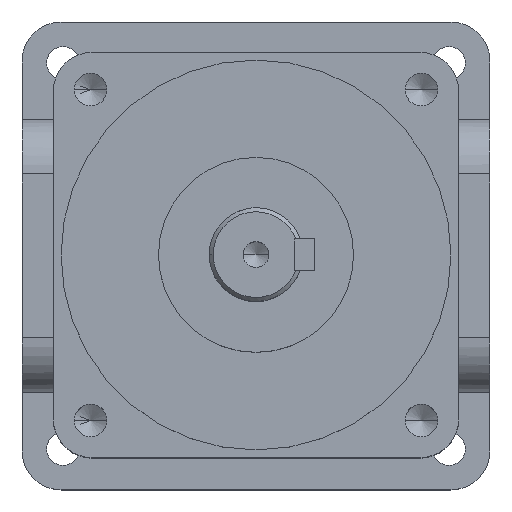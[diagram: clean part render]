
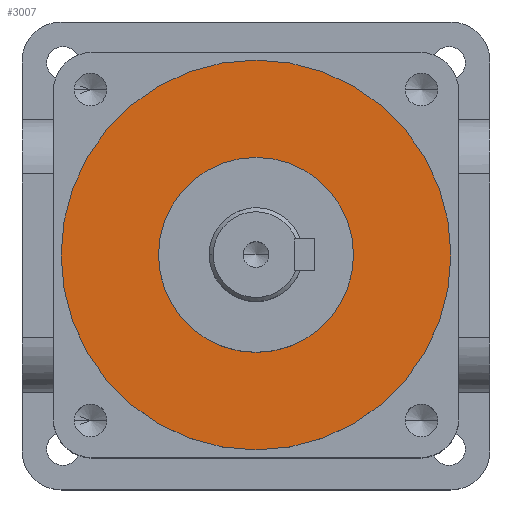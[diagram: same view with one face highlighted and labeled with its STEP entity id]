
A CAD part, top view. The second image highlights one B-rep face of the part: STEP entity #3007.
In plain terms, the highlighted planar face has unit normal (0, 0, 1).
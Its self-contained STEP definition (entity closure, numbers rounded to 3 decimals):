
#234 = CARTESIAN_POINT ( 'NONE',  ( 25., 0., 3. ) ) ;
#813 = CIRCLE ( 'NONE', #21940, 12.5 ) ;
#1140 = DIRECTION ( 'NONE',  ( 0., 0., -1. ) ) ;
#1425 = FACE_BOUND ( 'NONE', #5401, .T. ) ;
#1467 = ORIENTED_EDGE ( 'NONE', *, *, #32399, .F. ) ;
#1773 = DIRECTION ( 'NONE',  ( 0., 0., -1. ) ) ;
#2527 = DIRECTION ( 'NONE',  ( 1., 0., 0. ) ) ;
#2877 = CARTESIAN_POINT ( 'NONE',  ( 0., 0., 3. ) ) ;
#3007 = ADVANCED_FACE ( 'NONE', ( #1425, #14783 ), #15028, .T. ) ;
#5401 = EDGE_LOOP ( 'NONE', ( #31891, #11650 ) ) ;
#5411 = DIRECTION ( 'NONE',  ( -1., 0., 0. ) ) ;
#8557 = VERTEX_POINT ( 'NONE', #234 ) ;
#8978 = CARTESIAN_POINT ( 'NONE',  ( -25., 0., 3. ) ) ;
#9339 = VERTEX_POINT ( 'NONE', #9820 ) ;
#9820 = CARTESIAN_POINT ( 'NONE',  ( -12.5, 0., 3. ) ) ;
#10152 = ORIENTED_EDGE ( 'NONE', *, *, #20125, .F. ) ;
#10666 = VERTEX_POINT ( 'NONE', #13434 ) ;
#11650 = ORIENTED_EDGE ( 'NONE', *, *, #15153, .T. ) ;
#12480 = CARTESIAN_POINT ( 'NONE',  ( 0., 0., 3. ) ) ;
#12578 = EDGE_LOOP ( 'NONE', ( #1467, #10152 ) ) ;
#13266 = CARTESIAN_POINT ( 'NONE',  ( 0., 0., 3. ) ) ;
#13434 = CARTESIAN_POINT ( 'NONE',  ( 12.5, 0., 3. ) ) ;
#14526 = AXIS2_PLACEMENT_3D ( 'NONE', #13266, #30865, #15823 ) ;
#14679 = CIRCLE ( 'NONE', #14526, 12.5 ) ;
#14783 = FACE_OUTER_BOUND ( 'NONE', #12578, .T. ) ;
#15028 = PLANE ( 'NONE',  #32118 ) ;
#15141 = CIRCLE ( 'NONE', #22483, 25. ) ;
#15153 = EDGE_CURVE ( 'NONE', #10666, #9339, #14679, .T. ) ;
#15823 = DIRECTION ( 'NONE',  ( -1., 0., 0. ) ) ;
#16203 = CARTESIAN_POINT ( 'NONE',  ( 0., 0., 3. ) ) ;
#16821 = CARTESIAN_POINT ( 'NONE',  ( 0., 0., 3. ) ) ;
#17557 = DIRECTION ( 'NONE',  ( 0., 0., 1. ) ) ;
#18700 = DIRECTION ( 'NONE',  ( -1., 0., 0. ) ) ;
#19353 = DIRECTION ( 'NONE',  ( -1., 0., 0. ) ) ;
#20125 = EDGE_CURVE ( 'NONE', #8557, #23948, #30697, .T. ) ;
#20466 = DIRECTION ( 'NONE',  ( 0., 0., -1. ) ) ;
#21940 = AXIS2_PLACEMENT_3D ( 'NONE', #16821, #1773, #19353 ) ;
#22483 = AXIS2_PLACEMENT_3D ( 'NONE', #2877, #20466, #5411 ) ;
#23948 = VERTEX_POINT ( 'NONE', #8978 ) ;
#29700 = EDGE_CURVE ( 'NONE', #9339, #10666, #813, .T. ) ;
#30697 = CIRCLE ( 'NONE', #32560, 25. ) ;
#30865 = DIRECTION ( 'NONE',  ( 0., 0., -1. ) ) ;
#31891 = ORIENTED_EDGE ( 'NONE', *, *, #29700, .T. ) ;
#32118 = AXIS2_PLACEMENT_3D ( 'NONE', #12480, #17557, #2527 ) ;
#32399 = EDGE_CURVE ( 'NONE', #23948, #8557, #15141, .T. ) ;
#32560 = AXIS2_PLACEMENT_3D ( 'NONE', #16203, #1140, #18700 ) ;
